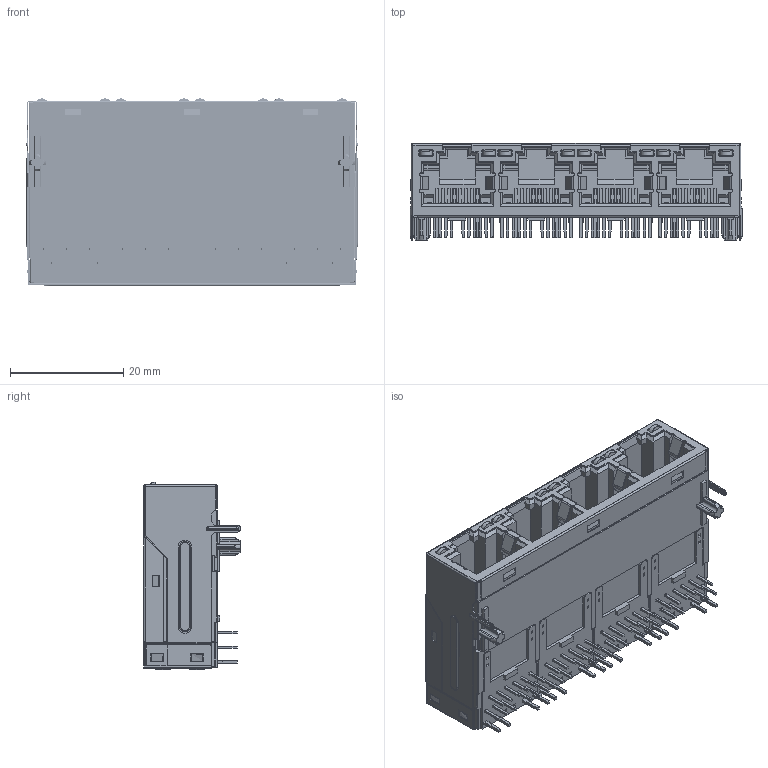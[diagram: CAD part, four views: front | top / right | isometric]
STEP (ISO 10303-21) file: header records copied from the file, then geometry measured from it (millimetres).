
FILE_DESCRIPTION((''),'2;1');
FILE_NAME('CZT25H-J087','2025-09-25T14:36:20',('DGKYD'),(''),'CREO PARAMETRIC BY PTC INC, 2019010','CREO PARAMETRIC BY PTC INC, 2019010','');
FILE_SCHEMA(('CONFIG_CONTROL_DESIGN'));
Products named in the file (1): CZT25H-J087
Bounding box: 58.66 x 17.13 x 33.07 mm (x, y, z)
Volume: 19147.7 mm3; surface area: 25309 mm2
Topology: 1 solids, 10 shells, 6230 faces, 17780 edges, 11460 vertices
Faces by surface type: plane 3858, cylinder 1749, torus 287, sphere 220, cone 72, bspline 44
Entity records: 204701 total; most frequent: CARTESIAN_POINT 42619, ORIENTED_EDGE 34519, DIRECTION 32784, EDGE_CURVE 17556, VECTOR 12322, LINE 12322, VERTEX_POINT 11461, AXIS2_PLACEMENT_3D 10231
